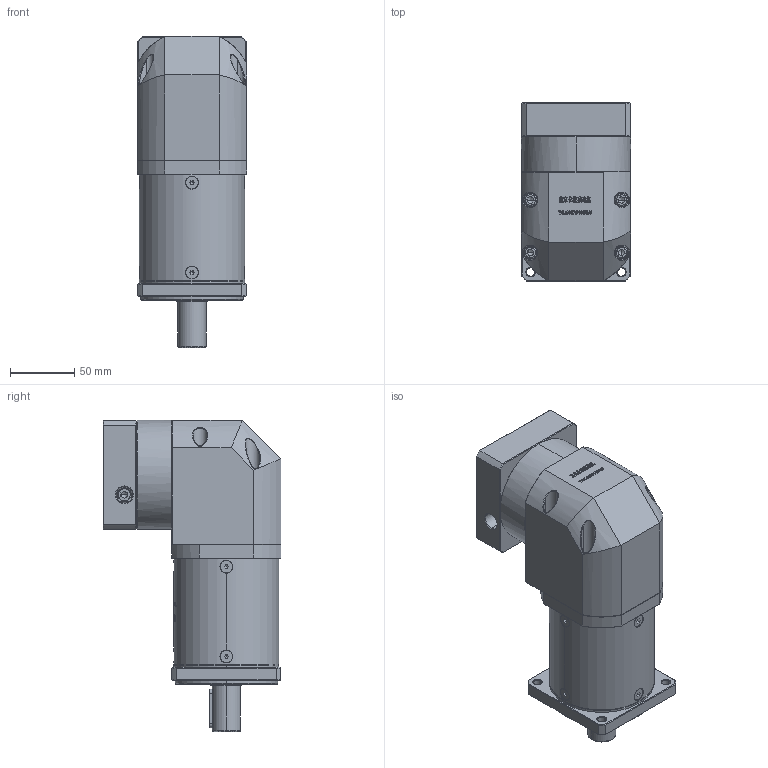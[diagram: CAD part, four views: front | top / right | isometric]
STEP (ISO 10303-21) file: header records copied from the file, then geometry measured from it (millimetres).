
FILE_DESCRIPTION (( 'STEP AP214' ), '1' );
FILE_NAME ('ZFR80-D22-L3-19-80-100-M6.step', '2022-05-08T12:07:45', ( '' ), ( 'Microsoft' ), 'SwSTEP 2.0', 'SolidWorks 2016', '' );
FILE_SCHEMA (( 'AUTOMOTIVE_DESIGN' ));
Length unit declared in the file: millimetre
Products named in the file (1): ZFR80-D22-L3-19-80-100-M6
Bounding box: 85 x 138.6 x 242.5 mm (x, y, z)
Volume: 1466115.6 mm3; surface area: 146265.8 mm2
Topology: 13 solids, 13 shells, 3060 faces, 8037 edges, 5127 vertices
Faces by surface type: plane 1617, bspline 624, cylinder 441, cone 364, torus 14
Entity records: 165046 total; most frequent: CARTESIAN_POINT 61643, ORIENTED_EDGE 15982, DIRECTION 12030, EDGE_CURVE 7991, VERTEX_POINT 5127, LINE 4968, VECTOR 4968, AXIS2_PLACEMENT_3D 3531
